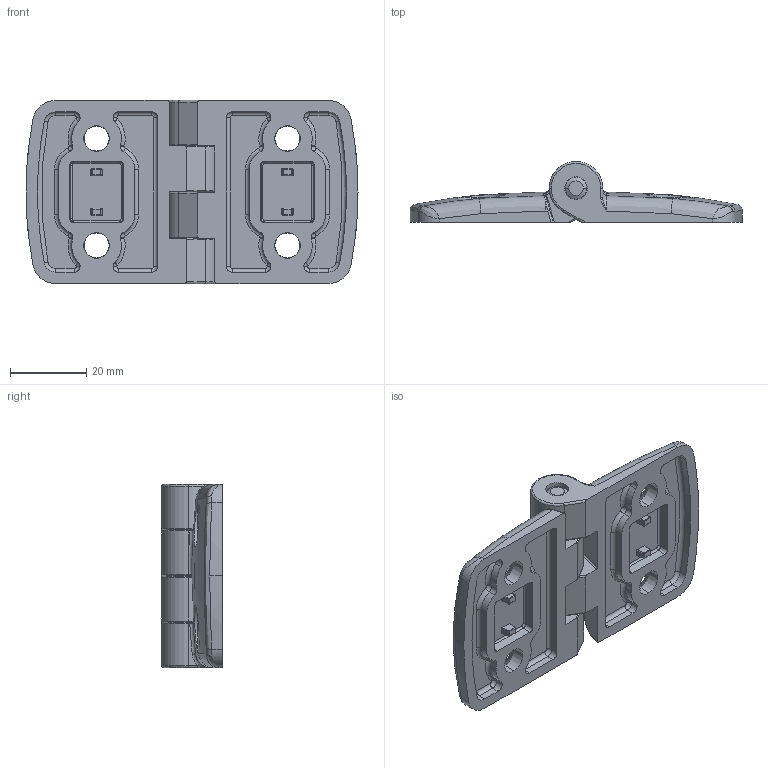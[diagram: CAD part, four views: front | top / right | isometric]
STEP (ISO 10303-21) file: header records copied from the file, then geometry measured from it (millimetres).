
FILE_DESCRIPTION (( 'STEP AP214' ), '1' );
FILE_NAME ('095A4545FS20S01.STEP', '2021-08-25T11:34:28', ( '' ), ( '' ), 'SwSTEP 2.0', 'SolidWorks 2021', '' );
FILE_SCHEMA (( 'AUTOMOTIVE_DESIGN' ));
Length unit declared in the file: millimetre
Products named in the file (4): 095K.02E_095A.02E; 095A4545FS20S01; 095a40f_095A45FS20; 340me383_Standard
Assembly tree (7 placements, depth 2):
  095A4545FS20S01
    095K.02E_095A.02E
    340me383_Standard  x4
    095a40f_095A45FS20  x2
Bounding box: 87 x 15.9 x 48 mm (x, y, z)
Volume: 23690.1 mm3; surface area: 16911.1 mm2
Topology: 7 solids, 7 shells, 715 faces, 1776 edges, 1071 vertices
Faces by surface type: plane 244, cylinder 231, torus 102, cone 76, bspline 62
Entity records: 14472 total; most frequent: CARTESIAN_POINT 4056, DIRECTION 2190, ORIENTED_EDGE 2176, EDGE_CURVE 1088, AXIS2_PLACEMENT_3D 861, VERTEX_POINT 662, VECTOR 468, LINE 468
